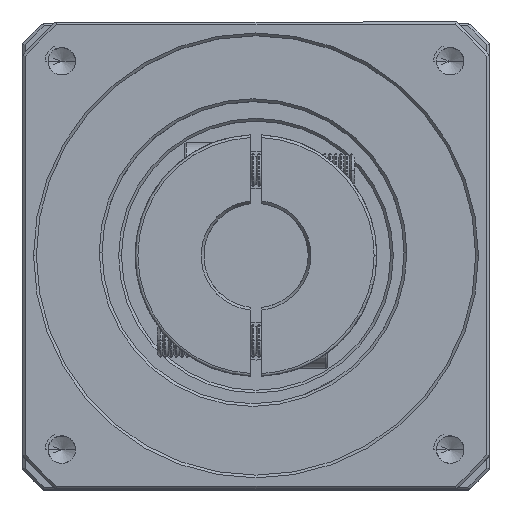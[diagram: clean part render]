
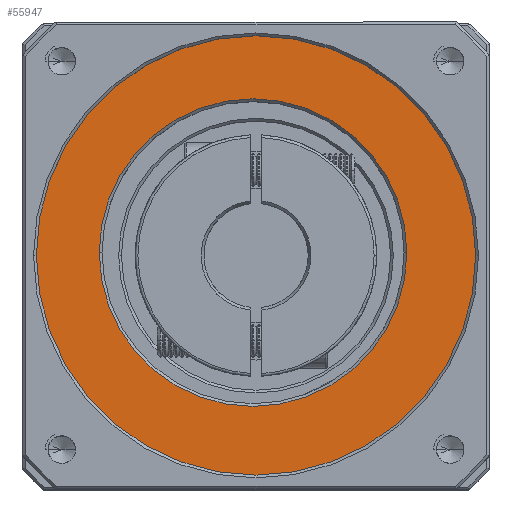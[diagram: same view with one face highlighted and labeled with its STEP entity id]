
A CAD part, top view. The second image highlights one B-rep face of the part: STEP entity #55947.
In plain terms, the highlighted planar face has unit normal (0, 0, 1).
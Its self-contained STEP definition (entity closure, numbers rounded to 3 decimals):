
#4621 = DIRECTION ( 'NONE',  ( 1., 0., 0. ) ) ;
#6207 = AXIS2_PLACEMENT_3D ( 'NONE', #96055, #45339, #104543 ) ;
#10828 = PLANE ( 'NONE',  #70338 ) ;
#11151 = VERTEX_POINT ( 'NONE', #93047 ) ;
#14724 = EDGE_CURVE ( 'NONE', #11151, #96029, #82888, .T. ) ;
#16240 = DIRECTION ( 'NONE',  ( 0., 0., 1. ) ) ;
#23486 = CARTESIAN_POINT ( 'NONE',  ( -93.806, 25.131, 19.207 ) ) ;
#24356 = CARTESIAN_POINT ( 'NONE',  ( -93.264, 24.596, 19.207 ) ) ;
#24522 = CIRCLE ( 'NONE', #37867, 40. ) ;
#32017 = DIRECTION ( 'NONE',  ( 1., 0., 0. ) ) ;
#32875 = DIRECTION ( 'NONE',  ( 1., 0., 0. ) ) ;
#34364 = ORIENTED_EDGE ( 'NONE', *, *, #41956, .T. ) ;
#34670 = EDGE_LOOP ( 'NONE', ( #95758, #34364 ) ) ;
#34865 = AXIS2_PLACEMENT_3D ( 'NONE', #106034, #55304, #4621 ) ;
#37867 = AXIS2_PLACEMENT_3D ( 'NONE', #66884, #16240, #75435 ) ;
#41956 = EDGE_CURVE ( 'NONE', #43370, #73006, #93222, .T. ) ;
#43370 = VERTEX_POINT ( 'NONE', #100923 ) ;
#45339 = DIRECTION ( 'NONE',  ( 0., 0., 1. ) ) ;
#55304 = DIRECTION ( 'NONE',  ( 0., 0., -1. ) ) ;
#55505 = EDGE_CURVE ( 'NONE', #96029, #11151, #97169, .T. ) ;
#55947 = ADVANCED_FACE ( 'NONE', ( #83729, #61186 ), #10828, .T. ) ;
#56526 = AXIS2_PLACEMENT_3D ( 'NONE', #23486, #82666, #32017 ) ;
#61186 = FACE_BOUND ( 'NONE', #75481, .T. ) ;
#66884 = CARTESIAN_POINT ( 'NONE',  ( -93.264, 24.596, 19.207 ) ) ;
#70338 = AXIS2_PLACEMENT_3D ( 'NONE', #24356, #83526, #32875 ) ;
#73006 = VERTEX_POINT ( 'NONE', #96649 ) ;
#75435 = DIRECTION ( 'NONE',  ( 1., 0., 0. ) ) ;
#75481 = EDGE_LOOP ( 'NONE', ( #82653, #108641 ) ) ;
#82653 = ORIENTED_EDGE ( 'NONE', *, *, #14724, .T. ) ;
#82666 = DIRECTION ( 'NONE',  ( 0., 0., -1. ) ) ;
#82888 = CIRCLE ( 'NONE', #56526, 28. ) ;
#83526 = DIRECTION ( 'NONE',  ( 0., 0., 1. ) ) ;
#83729 = FACE_OUTER_BOUND ( 'NONE', #34670, .T. ) ;
#93047 = CARTESIAN_POINT ( 'NONE',  ( -65.806, 25.131, 19.207 ) ) ;
#93222 = CIRCLE ( 'NONE', #6207, 40. ) ;
#95758 = ORIENTED_EDGE ( 'NONE', *, *, #96539, .T. ) ;
#96029 = VERTEX_POINT ( 'NONE', #97087 ) ;
#96055 = CARTESIAN_POINT ( 'NONE',  ( -93.264, 24.596, 19.207 ) ) ;
#96539 = EDGE_CURVE ( 'NONE', #73006, #43370, #24522, .T. ) ;
#96649 = CARTESIAN_POINT ( 'NONE',  ( -53.264, 24.596, 19.207 ) ) ;
#97087 = CARTESIAN_POINT ( 'NONE',  ( -121.806, 25.131, 19.207 ) ) ;
#97169 = CIRCLE ( 'NONE', #34865, 28. ) ;
#100923 = CARTESIAN_POINT ( 'NONE',  ( -133.264, 24.596, 19.207 ) ) ;
#104543 = DIRECTION ( 'NONE',  ( 1., 0., 0. ) ) ;
#106034 = CARTESIAN_POINT ( 'NONE',  ( -93.806, 25.131, 19.207 ) ) ;
#108641 = ORIENTED_EDGE ( 'NONE', *, *, #55505, .T. ) ;
